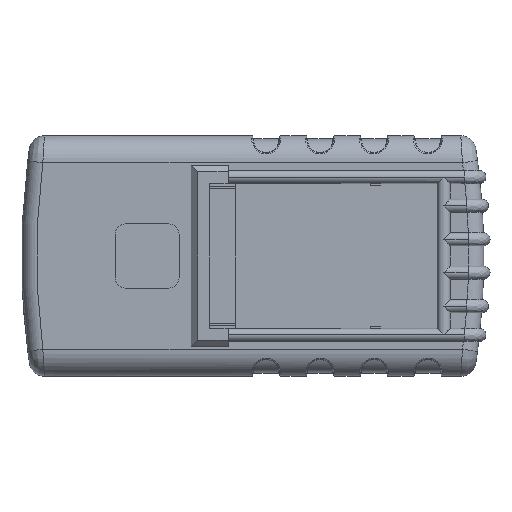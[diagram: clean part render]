
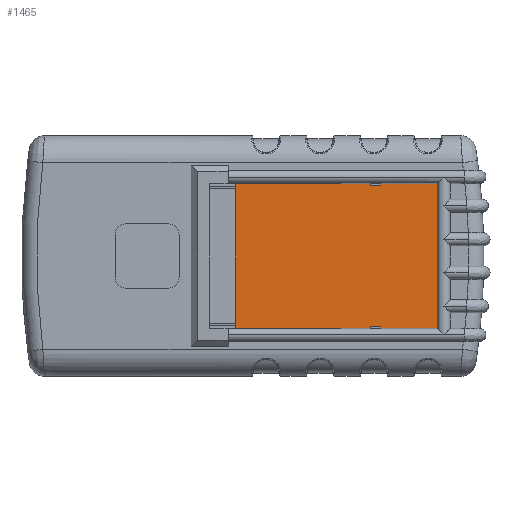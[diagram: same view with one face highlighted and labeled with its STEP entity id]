
A CAD part, front view. The second image highlights one B-rep face of the part: STEP entity #1465.
In plain terms, the highlighted planar face has unit normal (0, -1, 0).
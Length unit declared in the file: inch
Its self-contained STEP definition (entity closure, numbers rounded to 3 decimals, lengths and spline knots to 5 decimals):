
#155 = FACE_OUTER_BOUND ( 'NONE', #20843, .T. ) ;
#458 = VECTOR ( 'NONE', #23506, 39.37008 ) ;
#922 = ORIENTED_EDGE ( 'NONE', *, *, #15745, .T. ) ;
#1465 = ADVANCED_FACE ( 'NONE', ( #155 ), #12429, .T. ) ;
#2320 = VERTEX_POINT ( 'NONE', #5351 ) ;
#2914 = VECTOR ( 'NONE', #10197, 39.37008 ) ;
#3848 = EDGE_CURVE ( 'NONE', #36411, #18351, #40065, .T. ) ;
#3921 = LINE ( 'NONE', #7495, #2914 ) ;
#4276 = CARTESIAN_POINT ( 'NONE',  ( 3.42182, 0.035, -1.3435 ) ) ;
#4494 = VERTEX_POINT ( 'NONE', #38389 ) ;
#4894 = CARTESIAN_POINT ( 'NONE',  ( 0., 0.035, -1.31086 ) ) ;
#4973 = LINE ( 'NONE', #11887, #29542 ) ;
#5018 = ORIENTED_EDGE ( 'NONE', *, *, #7666, .F. ) ;
#5169 = VECTOR ( 'NONE', #15372, 39.37008 ) ;
#5325 = LINE ( 'NONE', #4894, #29899 ) ;
#5351 = CARTESIAN_POINT ( 'NONE',  ( 2.36682, 0.035, -1.31086 ) ) ;
#6164 = CARTESIAN_POINT ( 'NONE',  ( 3.42182, 0.035, 1.3435 ) ) ;
#6196 = LINE ( 'NONE', #40803, #5169 ) ;
#7167 = ORIENTED_EDGE ( 'NONE', *, *, #31280, .T. ) ;
#7422 = EDGE_CURVE ( 'NONE', #8160, #2320, #36869, .T. ) ;
#7492 = LINE ( 'NONE', #31920, #15092 ) ;
#7495 = CARTESIAN_POINT ( 'NONE',  ( 3.42182, 0.035, 1.3435 ) ) ;
#7666 = EDGE_CURVE ( 'NONE', #2320, #10561, #5325, .T. ) ;
#8160 = VERTEX_POINT ( 'NONE', #15764 ) ;
#8936 = ORIENTED_EDGE ( 'NONE', *, *, #7422, .F. ) ;
#9590 = DIRECTION ( 'NONE',  ( 0., 0., -1. ) ) ;
#10197 = DIRECTION ( 'NONE',  ( -1., 0., 0. ) ) ;
#10239 = CARTESIAN_POINT ( 'NONE',  ( 2.17882, 0.035, 1.3435 ) ) ;
#10561 = VERTEX_POINT ( 'NONE', #40658 ) ;
#11182 = DIRECTION ( 'NONE',  ( -1., 0., 0. ) ) ;
#11304 = CARTESIAN_POINT ( 'NONE',  ( 2.36682, 0.035, 1.31086 ) ) ;
#11482 = LINE ( 'NONE', #36855, #18986 ) ;
#11887 = CARTESIAN_POINT ( 'NONE',  ( -0.32118, 0.035, -1.3435 ) ) ;
#11954 = DIRECTION ( 'NONE',  ( 0., 0., -1. ) ) ;
#12039 = DIRECTION ( 'NONE',  ( 0., -1., 0. ) ) ;
#12429 = PLANE ( 'NONE',  #32813 ) ;
#13135 = DIRECTION ( 'NONE',  ( 0., 0., 1. ) ) ;
#15092 = VECTOR ( 'NONE', #9590, 39.37008 ) ;
#15372 = DIRECTION ( 'NONE',  ( 1., 0., 0. ) ) ;
#15745 = EDGE_CURVE ( 'NONE', #37982, #41209, #3921, .T. ) ;
#15764 = CARTESIAN_POINT ( 'NONE',  ( 2.36682, 0.035, -1.3435 ) ) ;
#15992 = VECTOR ( 'NONE', #37038, 39.37008 ) ;
#16962 = CARTESIAN_POINT ( 'NONE',  ( 2.36682, 0.035, 1.3435 ) ) ;
#17025 = ORIENTED_EDGE ( 'NONE', *, *, #34793, .T. ) ;
#17601 = LINE ( 'NONE', #4276, #458 ) ;
#18161 = CARTESIAN_POINT ( 'NONE',  ( -0.32118, 0.035, 1.3435 ) ) ;
#18351 = VERTEX_POINT ( 'NONE', #32200 ) ;
#18986 = VECTOR ( 'NONE', #40193, 39.37008 ) ;
#19550 = CARTESIAN_POINT ( 'NONE',  ( 2.36682, 0.035, 0. ) ) ;
#19723 = EDGE_CURVE ( 'NONE', #10561, #4494, #7492, .T. ) ;
#20419 = VERTEX_POINT ( 'NONE', #10239 ) ;
#20574 = EDGE_CURVE ( 'NONE', #41209, #33070, #11482, .T. ) ;
#20843 = EDGE_LOOP ( 'NONE', ( #29843, #22587, #29352, #36324, #7167, #35695, #5018, #8936, #17025, #27326, #922, #31015 ) ) ;
#21512 = DIRECTION ( 'NONE',  ( 1., 0., 0. ) ) ;
#22587 = ORIENTED_EDGE ( 'NONE', *, *, #28639, .T. ) ;
#23011 = VERTEX_POINT ( 'NONE', #23913 ) ;
#23506 = DIRECTION ( 'NONE',  ( 0., 0., 1. ) ) ;
#23913 = CARTESIAN_POINT ( 'NONE',  ( 3.42182, 0.035, -1.3435 ) ) ;
#24137 = VECTOR ( 'NONE', #37211, 39.37008 ) ;
#24247 = CARTESIAN_POINT ( 'NONE',  ( 2.17882, 0.035, 0. ) ) ;
#24412 = CARTESIAN_POINT ( 'NONE',  ( 3.42182, 0.035, 1.3435 ) ) ;
#24415 = LINE ( 'NONE', #24247, #15992 ) ;
#24447 = VECTOR ( 'NONE', #26476, 39.37008 ) ;
#26114 = LINE ( 'NONE', #33496, #41027 ) ;
#26476 = DIRECTION ( 'NONE',  ( -1., 0., 0. ) ) ;
#26842 = EDGE_CURVE ( 'NONE', #20419, #36411, #32922, .T. ) ;
#27326 = ORIENTED_EDGE ( 'NONE', *, *, #34672, .T. ) ;
#28212 = CARTESIAN_POINT ( 'NONE',  ( 0., 0.035, 0. ) ) ;
#28440 = VECTOR ( 'NONE', #13135, 39.37008 ) ;
#28639 = EDGE_CURVE ( 'NONE', #36561, #20419, #24415, .T. ) ;
#29352 = ORIENTED_EDGE ( 'NONE', *, *, #26842, .T. ) ;
#29542 = VECTOR ( 'NONE', #21512, 39.37008 ) ;
#29843 = ORIENTED_EDGE ( 'NONE', *, *, #39684, .T. ) ;
#29899 = VECTOR ( 'NONE', #30520, 39.37008 ) ;
#30520 = DIRECTION ( 'NONE',  ( -1., 0., 0. ) ) ;
#31015 = ORIENTED_EDGE ( 'NONE', *, *, #20574, .T. ) ;
#31280 = EDGE_CURVE ( 'NONE', #18351, #4494, #6196, .T. ) ;
#31920 = CARTESIAN_POINT ( 'NONE',  ( 2.17882, 0.035, 0. ) ) ;
#32200 = CARTESIAN_POINT ( 'NONE',  ( -0.32118, 0.035, -1.3435 ) ) ;
#32813 = AXIS2_PLACEMENT_3D ( 'NONE', #28212, #12039, #11954 ) ;
#32922 = LINE ( 'NONE', #6164, #24447 ) ;
#33070 = VERTEX_POINT ( 'NONE', #11304 ) ;
#33207 = CARTESIAN_POINT ( 'NONE',  ( -0.32118, 0.035, 1.3435 ) ) ;
#33496 = CARTESIAN_POINT ( 'NONE',  ( 0., 0.035, 1.31086 ) ) ;
#34672 = EDGE_CURVE ( 'NONE', #23011, #37982, #17601, .T. ) ;
#34793 = EDGE_CURVE ( 'NONE', #8160, #23011, #4973, .T. ) ;
#35695 = ORIENTED_EDGE ( 'NONE', *, *, #19723, .F. ) ;
#36324 = ORIENTED_EDGE ( 'NONE', *, *, #3848, .T. ) ;
#36411 = VERTEX_POINT ( 'NONE', #33207 ) ;
#36561 = VERTEX_POINT ( 'NONE', #37764 ) ;
#36855 = CARTESIAN_POINT ( 'NONE',  ( 2.36682, 0.035, 0. ) ) ;
#36869 = LINE ( 'NONE', #19550, #28440 ) ;
#37038 = DIRECTION ( 'NONE',  ( 0., 0., 1. ) ) ;
#37211 = DIRECTION ( 'NONE',  ( 0., 0., -1. ) ) ;
#37764 = CARTESIAN_POINT ( 'NONE',  ( 2.17882, 0.035, 1.31086 ) ) ;
#37982 = VERTEX_POINT ( 'NONE', #24412 ) ;
#38389 = CARTESIAN_POINT ( 'NONE',  ( 2.17882, 0.035, -1.3435 ) ) ;
#39684 = EDGE_CURVE ( 'NONE', #33070, #36561, #26114, .T. ) ;
#40065 = LINE ( 'NONE', #18161, #24137 ) ;
#40193 = DIRECTION ( 'NONE',  ( 0., 0., -1. ) ) ;
#40658 = CARTESIAN_POINT ( 'NONE',  ( 2.17882, 0.035, -1.31086 ) ) ;
#40803 = CARTESIAN_POINT ( 'NONE',  ( -0.32118, 0.035, -1.3435 ) ) ;
#41027 = VECTOR ( 'NONE', #11182, 39.37008 ) ;
#41209 = VERTEX_POINT ( 'NONE', #16962 ) ;
